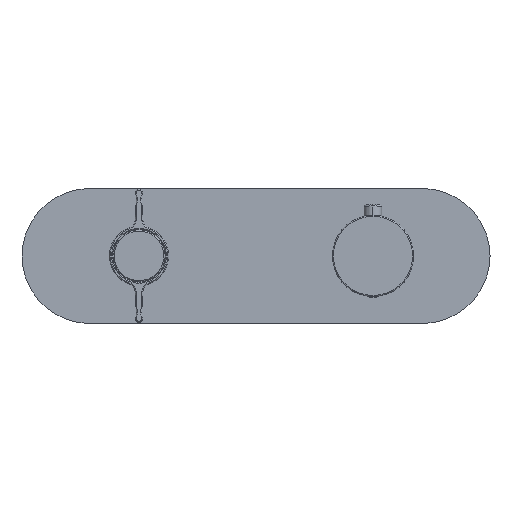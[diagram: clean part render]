
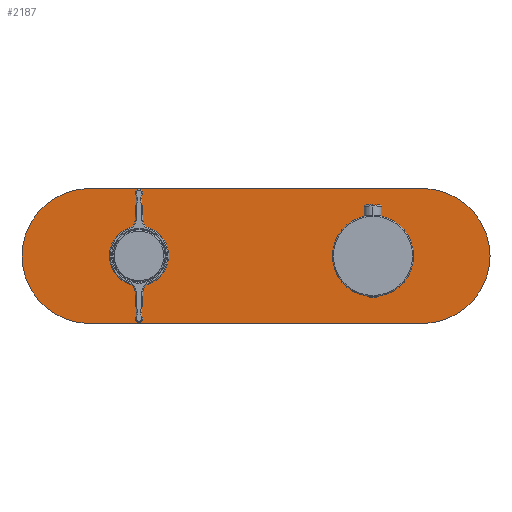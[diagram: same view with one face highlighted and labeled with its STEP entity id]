
A CAD part, top view. The second image highlights one B-rep face of the part: STEP entity #2187.
In plain terms, the highlighted planar face has unit normal (0, 0, 1).
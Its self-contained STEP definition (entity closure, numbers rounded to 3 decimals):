
#22=CARTESIAN_POINT('',(65.,0.,4.));
#23=DIRECTION('',(0.,0.,-1.));
#24=DIRECTION('',(-1.,0.,0.));
#25=AXIS2_PLACEMENT_3D('',#22,#23,#24);
#27=CARTESIAN_POINT('',(-92.5,0.,4.));
#28=DIRECTION('',(0.,0.,1.));
#29=DIRECTION('',(0.,1.,0.));
#30=AXIS2_PLACEMENT_3D('',#27,#28,#29);
#32=DIRECTION('',(-1.,0.,0.));
#33=VECTOR('',#32,185.);
#34=CARTESIAN_POINT('',(92.5,37.5,4.));
#35=LINE('',#34,#33);
#36=CARTESIAN_POINT('',(92.5,0.,4.));
#37=DIRECTION('',(0.,0.,1.));
#38=DIRECTION('',(0.,-1.,0.));
#39=AXIS2_PLACEMENT_3D('',#36,#37,#38);
#41=DIRECTION('',(1.,0.,0.));
#42=VECTOR('',#41,185.);
#43=CARTESIAN_POINT('',(-92.5,-37.5,4.));
#44=LINE('',#43,#42);
#45=CARTESIAN_POINT('',(65.,0.,4.));
#46=DIRECTION('',(0.,0.,-1.));
#47=DIRECTION('',(1.,0.,0.));
#48=AXIS2_PLACEMENT_3D('',#45,#46,#47);
#1089=CARTESIAN_POINT('',(-65.,0.,4.));
#1090=DIRECTION('',(0.,0.,1.));
#1091=DIRECTION('',(0.,-1.,0.));
#1092=AXIS2_PLACEMENT_3D('',#1089,#1090,#1091);
#1098=CARTESIAN_POINT('',(-65.,0.,4.));
#1099=DIRECTION('',(0.,0.,1.));
#1100=DIRECTION('',(0.,1.,0.));
#1101=AXIS2_PLACEMENT_3D('',#1098,#1099,#1100);
#1840=CARTESIAN_POINT('',(-92.5,37.5,4.));
#1841=CARTESIAN_POINT('',(-92.5,-37.5,4.));
#1842=VERTEX_POINT('',#1840);
#1843=VERTEX_POINT('',#1841);
#1844=CARTESIAN_POINT('',(92.5,-37.5,4.));
#1845=VERTEX_POINT('',#1844);
#1846=CARTESIAN_POINT('',(92.5,37.5,4.));
#1847=VERTEX_POINT('',#1846);
#2078=CARTESIAN_POINT('',(42.5,0.,4.));
#2079=CARTESIAN_POINT('',(87.5,0.,4.));
#2080=VERTEX_POINT('',#2078);
#2081=VERTEX_POINT('',#2079);
#2082=CARTESIAN_POINT('',(-65.,-15.,4.));
#2083=CARTESIAN_POINT('',(-65.,15.,4.));
#2084=VERTEX_POINT('',#2082);
#2085=VERTEX_POINT('',#2083);
#2161=CARTESIAN_POINT('',(65.,0.,4.));
#2162=DIRECTION('',(0.,0.,1.));
#2163=DIRECTION('',(1.,0.,0.));
#2164=AXIS2_PLACEMENT_3D('',#2161,#2162,#2163);
#2165=PLANE('',#2164);
#2167=ORIENTED_EDGE('',*,*,#2166,.F.);
#2169=ORIENTED_EDGE('',*,*,#2168,.F.);
#2171=ORIENTED_EDGE('',*,*,#2170,.F.);
#2173=ORIENTED_EDGE('',*,*,#2172,.F.);
#2174=EDGE_LOOP('',(#2167,#2169,#2171,#2173));
#2175=FACE_OUTER_BOUND('',#2174,.F.);
#2177=ORIENTED_EDGE('',*,*,#2176,.T.);
#2179=ORIENTED_EDGE('',*,*,#2178,.T.);
#2180=EDGE_LOOP('',(#2177,#2179));
#2181=FACE_BOUND('',#2180,.F.);
#2182=ORIENTED_EDGE('',*,*,#2143,.F.);
#2184=ORIENTED_EDGE('',*,*,#2183,.F.);
#2185=EDGE_LOOP('',(#2182,#2184));
#2186=FACE_BOUND('',#2185,.F.);
#26=CIRCLE('',#25,22.5);
#31=CIRCLE('',#30,37.5);
#40=CIRCLE('',#39,37.5);
#49=CIRCLE('',#48,22.5);
#1093=CIRCLE('',#1092,15.);
#1102=CIRCLE('',#1101,15.);
#2143=EDGE_CURVE('',#2080,#2081,#26,.T.);
#2166=EDGE_CURVE('',#1842,#1843,#31,.T.);
#2168=EDGE_CURVE('',#1847,#1842,#35,.T.);
#2170=EDGE_CURVE('',#1845,#1847,#40,.T.);
#2172=EDGE_CURVE('',#1843,#1845,#44,.T.);
#2176=EDGE_CURVE('',#2084,#2085,#1093,.T.);
#2178=EDGE_CURVE('',#2085,#2084,#1102,.T.);
#2183=EDGE_CURVE('',#2081,#2080,#49,.T.);
#2187=ADVANCED_FACE('',(#2175,#2181,#2186),#2165,.T.);
